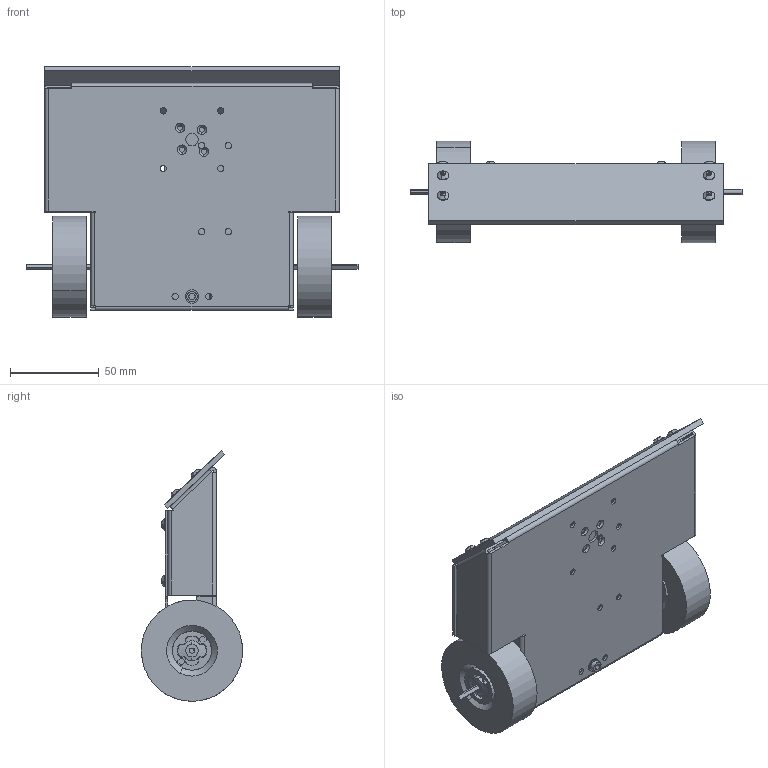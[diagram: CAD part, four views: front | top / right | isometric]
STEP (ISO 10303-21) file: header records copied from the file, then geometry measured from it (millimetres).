
FILE_DESCRIPTION (( 'STEP AP214' ), '1' );
FILE_NAME ('Viper R5.STEP', '2021-04-01T22:10:53', ( 'Kurtis' ), ( '' ), 'SwSTEP 2.0', 'SolidWorks 2015', '' );
FILE_SCHEMA (( 'AUTOMOTIVE_DESIGN' ));
Length unit declared in the file: inch
Products named in the file (15): SBHC Screw 632x375; SBHC Screw 632x250; servo connector; HK-TR6A; tiny esc; plug switch; foam wheel 2.25in; Twist Hub 3mmx075 R2_Assembled; FingerTech Silver Spark 16mm motor 33to1; Combat Lid Front R6_H-Spin, Lifter Front; Combat Lid Top R7_Lift Top; Viper Baseplate R6; Viper R5; G-2S-300 Lipo; 6-32 threaded insert
Assembly tree (36 placements, depth 2):
  Viper R5
    Viper Baseplate R6
    Combat Lid Top R7_Lift Top
    Combat Lid Front R6_H-Spin, Lifter Front
    FingerTech Silver Spark 16mm motor 33to1  x2
    Twist Hub 3mmx075 R2_Assembled  x2
    foam wheel 2.25in  x2
    plug switch
    tiny esc  x2
    HK-TR6A
    servo connector  x2
    SBHC Screw 632x250  x6
    SBHC Screw 632x375  x4
    6-32 threaded insert  x10
    G-2S-300 Lipo
Bounding box: 187.32 x 57.15 x 141.41 mm (x, y, z)
Volume: 218830 mm3; surface area: 155125.6 mm2
Topology: 67 solids, 67 shells, 2507 faces, 6158 edges, 3894 vertices
Faces by surface type: plane 1518, cylinder 765, bspline 88, cone 68, sphere 38, torus 30
Entity records: 50477 total; most frequent: CARTESIAN_POINT 9246, ORIENTED_EDGE 7164, DIRECTION 7074, EDGE_CURVE 3582, LINE 2492, VECTOR 2492, AXIS2_PLACEMENT_3D 2291, VERTEX_POINT 2273
